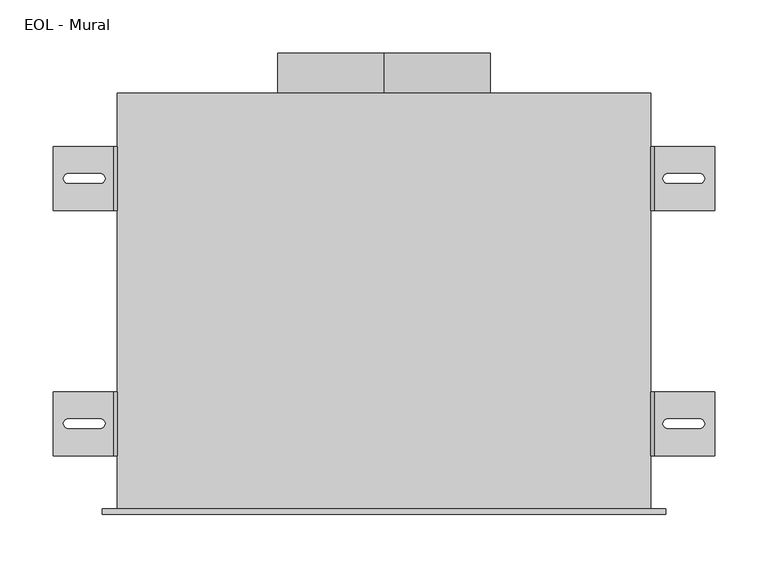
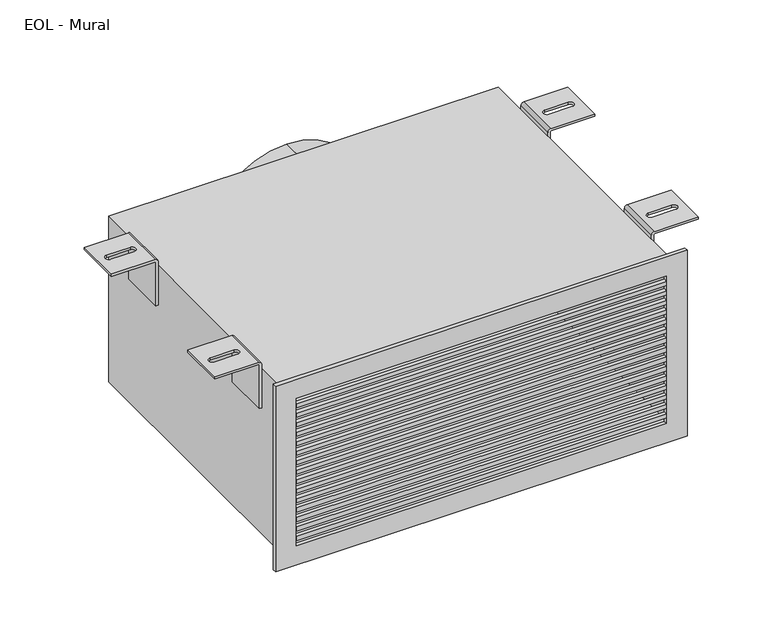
"""IFC4 building model written with IfcOpenShell, lengths in millimetres: air terminal geometry, EOL - Mural : EOL-M200-500x225-2."""

import ifcopenshell
import ifcopenshell.guid

model = None  # the IFC model being written
_history = None  # IfcOwnerHistory: only IFC2X3 demands one
_inside = {}  # id of a spatial element -> (the spatial element, [elements in it])
_under = {}  # id of a project, library or spatial element -> (it, [spatial elements below it])
_declared = {}  # id of a project -> (the project, [libraries it declares])
_typed = {}  # id of a type object -> (the type object, [elements of that type])
_made_of = {}  # id of a material, layer set ... -> (it, [elements and type objects made of it])


def new_model(schema):
    """Start an empty IFC model of exactly this schema.

    Asked for "IFC4X3", IfcOpenShell would pick the latest addendum, in which some entities
    have other attributes; the version numbers below select the first issue.
    IFC2X3 requires an IfcOwnerHistory on every rooted entity: one is made here for all.
    """
    global model, _history
    if schema == "IFC4X3":
        model = ifcopenshell.file(schema_version=(4, 3, 0, 0))
    else:
        model = ifcopenshell.file(schema=schema)
    _inside.clear()
    _under.clear()
    _declared.clear()
    _typed.clear()
    _made_of.clear()
    _history = None
    if model.schema == "IFC2X3":
        org = make("IfcOrganization", Name="unknown")
        user = make(
            "IfcPersonAndOrganization",
            ThePerson=make("IfcPerson", FamilyName="unknown"),
            TheOrganization=org,
        )
        app = make(
            "IfcApplication",
            ApplicationDeveloper=org,
            Version="unknown",
            ApplicationFullName="unknown",
            ApplicationIdentifier="unknown",
        )
        _history = make(
            "IfcOwnerHistory",
            OwningUser=user,
            OwningApplication=app,
            ChangeAction="ADDED",
            CreationDate=0,
        )
    return model


def make(cls, **values):
    """One entity of the class cls with the attributes given. An attribute that is None is left unset."""
    return model.create_entity(
        cls, **{name: value for name, value in values.items() if value is not None}
    )


def rooted(cls, **values):
    """An entity with a GlobalId (a new one), such as an element, a storey or a relation."""
    return make(cls, GlobalId=ifcopenshell.guid.new(), OwnerHistory=_history, **values)


def si_unit(unit_type, name, prefix=None):
    """IfcSIUnit, for example si_unit("LENGTHUNIT", "METRE", prefix="MILLI")."""
    return make("IfcSIUnit", UnitType=unit_type, Prefix=prefix, Name=name)


def assignment(units):
    """IfcUnitAssignment: the units of a project."""
    return None if units is None else make("IfcUnitAssignment", Units=units)


def point(xyz):
    """IfcCartesianPoint."""
    return None if xyz is None else make("IfcCartesianPoint", Coordinates=xyz)


def direction(xyz):
    """IfcDirection."""
    return None if xyz is None else make("IfcDirection", DirectionRatios=xyz)


def frame(location, z_axis=None, x_axis=None):
    """IfcAxis2Placement3D, a coordinate frame: its origin and axes. An axis left out is left unset."""
    return make(
        "IfcAxis2Placement3D",
        Location=point(location),
        Axis=direction(z_axis),
        RefDirection=direction(x_axis),
    )


def frame_2d(location, x_axis=None):
    """IfcAxis2Placement2D, a coordinate frame in the plane: its origin and x axis."""
    return make(
        "IfcAxis2Placement2D", Location=point(location), RefDirection=direction(x_axis)
    )


def origin():
    """The frame at (0, 0, 0) with its axes left unset."""
    return frame((0.0, 0.0, 0.0))


def origin_2d():
    """The frame at (0, 0) in the plane with its x axis left unset."""
    return frame_2d((0.0, 0.0))


def place(relative_to, where):
    """IfcLocalPlacement: puts the frame where relative to a parent placement (None: the world)."""
    return make(
        "IfcLocalPlacement", PlacementRelTo=relative_to, RelativePlacement=where
    )


def context(
    kind, dimensions, precision=None, world=None, true_north=None, identifier=None
):
    """IfcGeometricRepresentationContext, for example the 3D "Model" context."""
    return make(
        "IfcGeometricRepresentationContext",
        ContextIdentifier=identifier,
        ContextType=kind,
        CoordinateSpaceDimension=dimensions,
        Precision=precision,
        WorldCoordinateSystem=world,
        TrueNorth=true_north,
    )


def project(units=None, contexts=None):
    """IfcProject with its units and contexts."""
    return rooted(
        "IfcProject",
        Name="project",
        RepresentationContexts=contexts,
        UnitsInContext=assignment(units),
    )


def spatial(cls, under=None, at=None, **own):
    """A site, building, storey or space (cls), placed at a placement, below another one or the project."""
    s = rooted(cls, ObjectPlacement=at, **own)
    if under is not None:
        _under.setdefault(under.id(), (under, []))[1].append(s)
    return s


def polyline(points):
    """IfcPolyline through the points."""
    return make("IfcPolyline", Points=[point(p) for p in points])


def circle_curve(where, radius):
    """IfcCircle in the frame where."""
    return make("IfcCircle", Position=where, Radius=radius)


def ellipse_curve(where, semi_axis1, semi_axis2):
    """IfcEllipse in the frame where."""
    return make(
        "IfcEllipse", Position=where, SemiAxis1=semi_axis1, SemiAxis2=semi_axis2
    )


def trimmed(basis, trim1, trim2, sense, master):
    """IfcTrimmedCurve: the piece of a basis curve between two trims."""
    return make(
        "IfcTrimmedCurve",
        BasisCurve=basis,
        Trim1=trim1,
        Trim2=trim2,
        SenseAgreement=sense,
        MasterRepresentation=master,
    )


def segment(curve, same_sense, transition):
    """IfcCompositeCurveSegment."""
    return make(
        "IfcCompositeCurveSegment",
        Transition=transition,
        SameSense=same_sense,
        ParentCurve=curve,
    )


def composite_curve(segments, self_intersect=None):
    """IfcCompositeCurve: segments joined end to end."""
    return make("IfcCompositeCurve", Segments=segments, SelfIntersect=self_intersect)


def outline(outer, holes=None, kind="AREA"):
    """IfcArbitraryClosedProfileDef: a profile drawn as a closed curve; with holes, ...WithVoids."""
    if holes is None:
        return make("IfcArbitraryClosedProfileDef", ProfileType=kind, OuterCurve=outer)
    return make(
        "IfcArbitraryProfileDefWithVoids",
        ProfileType=kind,
        OuterCurve=outer,
        InnerCurves=holes,
    )


def extrude(swept, where, along, depth):
    """IfcExtrudedAreaSolid: the profile swept, set in the frame where, extruded along a direction by depth."""
    return make(
        "IfcExtrudedAreaSolid",
        SweptArea=swept,
        Position=where,
        ExtrudedDirection=direction(along),
        Depth=depth,
    )


def shape(context_of_items, identifier, shape_type, items):
    """IfcShapeRepresentation: the items that make up one representation, for example the "Body"."""
    return make(
        "IfcShapeRepresentation",
        ContextOfItems=context_of_items,
        RepresentationIdentifier=identifier,
        RepresentationType=shape_type,
        Items=items,
    )


def source(mapping_origin, context_of_items, identifier, shape_type, items):
    """IfcRepresentationMap: a shape defined once, which mapped items show again and again."""
    return make(
        "IfcRepresentationMap",
        MappingOrigin=mapping_origin,
        MappedRepresentation=shape(context_of_items, identifier, shape_type, items),
    )


def transform(
    local_origin,
    x_axis=None,
    y_axis=None,
    z_axis=None,
    scale=None,
    scale2=None,
    scale3=None,
    uniform=True,
):
    """IfcCartesianTransformationOperator3D, or its non-uniform kind. x_axis, y_axis, z_axis: its Axis1, 2, 3."""
    if uniform:
        return make(
            "IfcCartesianTransformationOperator3D",
            Axis1=direction(x_axis),
            Axis2=direction(y_axis),
            LocalOrigin=point(local_origin),
            Scale=scale,
            Axis3=direction(z_axis),
        )
    return make(
        "IfcCartesianTransformationOperator3DnonUniform",
        Axis1=direction(x_axis),
        Axis2=direction(y_axis),
        LocalOrigin=point(local_origin),
        Scale=scale,
        Axis3=direction(z_axis),
        Scale2=scale2,
        Scale3=scale3,
    )


def mapped(mapping_source, mapping_target):
    """IfcMappedItem: shows the shape of a source again, moved by a transform."""
    return make(
        "IfcMappedItem", MappingSource=mapping_source, MappingTarget=mapping_target
    )


def made_of(thing, what):
    """Note that an element or type object is made of a material, layer set ...; save() writes the relation."""
    if what is not None:
        _made_of.setdefault(what.id(), (what, []))[1].append(thing)
    return thing


def element(
    cls,
    number,
    at=None,
    inside=None,
    cuts=None,
    type_object=None,
    material=None,
    context=None,
    identifier="Body",
    shape_type=None,
    held_by="IfcProductDefinitionShape",
    body=None,
    shapes=None,
    **own,
):
    """One element of the class cls, such as IfcWall. Its Tag is "e" and its number.

    at: its placement. inside: the storey or other place that contains it. cuts: it is an
    opening in that element (IfcRelVoidsElement). A single representation is given by context,
    identifier, shape_type and body (its items); several are given by shapes. held_by: the class
    of the entity that holds the representations. save() writes the other relations.
    """
    e = rooted(cls, Tag="e%d" % number, ObjectPlacement=at, **own)
    if body is not None:
        shapes = [shape(context, identifier, shape_type, body)]
    if shapes is not None:
        e.Representation = make(held_by, Representations=shapes)
    if inside is not None:
        _inside.setdefault(inside.id(), (inside, []))[1].append(e)
    if cuts is not None:
        rooted(
            "IfcRelVoidsElement", RelatingBuildingElement=cuts, RelatedOpeningElement=e
        )
    if type_object is not None:
        _typed.setdefault(type_object.id(), (type_object, []))[1].append(e)
    return made_of(e, material)


def aggregate(whole, parts):
    """IfcRelAggregates: a whole, such as a stair, and the parts it consists of."""
    return rooted("IfcRelAggregates", RelatingObject=whole, RelatedObjects=parts)


def save(model, path):
    """Write the relations noted so far, then the file.

    IfcRelAggregates (storeys below a building ...), IfcRelContainedInSpatialStructure (elements
    in a storey), IfcRelDefinesByType, IfcRelAssociatesMaterial and IfcRelDeclares: one each for
    every whole, place, type object, material and project.
    """
    for whole, parts in _under.values():
        aggregate(whole, parts)
    for where, things in _inside.values():
        rooted(
            "IfcRelContainedInSpatialStructure",
            RelatedElements=things,
            RelatingStructure=where,
        )
    for kind, things in _typed.values():
        rooted("IfcRelDefinesByType", RelatedObjects=things, RelatingType=kind)
    for what, things in _made_of.values():
        rooted("IfcRelAssociatesMaterial", RelatedObjects=things, RelatingMaterial=what)
    for by, libraries in _declared.values():
        rooted("IfcRelDeclares", RelatingContext=by, RelatedDefinitions=libraries)
    model.write(path)


def plane_surface(at):
    """IfcPlane: the flat surface through the origin of the frame at, square to its z axis."""
    return make("IfcPlane", Position=at)


def cylinder_surface(at, radius):
    """IfcCylindricalSurface: all points at the distance radius from the z axis of the frame at."""
    return make("IfcCylindricalSurface", Position=at, Radius=radius)


def revolved_surface(curve, axis_point, axis_direction):
    """IfcSurfaceOfRevolution: the curve turned about the line through axis_point along axis_direction."""
    return make(
        "IfcSurfaceOfRevolution",
        SweptCurve=make("IfcArbitraryOpenProfileDef", ProfileType="CURVE", Curve=curve),
        AxisPosition=make("IfcAxis1Placement", Location=point(axis_point), Axis=direction(axis_direction)),
    )


def extruded_surface(curve, direction_of_extrusion, depth):
    """IfcSurfaceOfLinearExtrusion: the curve pushed along a direction by depth."""
    return make(
        "IfcSurfaceOfLinearExtrusion",
        SweptCurve=make("IfcArbitraryOpenProfileDef", ProfileType="CURVE", Curve=curve),
        ExtrudedDirection=direction(direction_of_extrusion),
        Depth=depth,
    )


def advanced_brep(points, edges, surfaces, faces):
    """IfcAdvancedBrep: a solid bounded by faces that lie on surfaces and meet in shared edges.

    An edge is (start, end): straight between two places in points (the first is 0);
    or (start, end, curve); or (start, end, curve, False) where it runs against its curve.
    A face is (place in surfaces, loops), or (place, loops, False) where it looks against
    its surface's normal. A loop lists edges by number (the first is 1), with a minus sign
    where the edge is run from its end to its start. The first loop is the outer one.
    """
    corners = [point(p) for p in points]
    vertices = [make("IfcVertexPoint", VertexGeometry=c) for c in corners]
    made = []
    for start, end, *more in edges:
        made.append(
            make(
                "IfcEdgeCurve",
                EdgeStart=vertices[start],
                EdgeEnd=vertices[end],
                EdgeGeometry=more[0] if more else make("IfcPolyline", Points=[corners[start], corners[end]]),
                SameSense=more[1] if len(more) > 1 else True,
            )
        )
    hull = []
    for where, loops, *sense in faces:
        bounds = []
        for j, loop in enumerate(loops):
            ring = [make("IfcOrientedEdge", EdgeElement=made[abs(k) - 1], Orientation=k > 0) for k in loop]
            bounds.append(
                make(
                    "IfcFaceOuterBound" if j == 0 else "IfcFaceBound",
                    Bound=make("IfcEdgeLoop", EdgeList=ring),
                    Orientation=True,
                )
            )
        hull.append(make("IfcAdvancedFace", Bounds=bounds, FaceSurface=surfaces[where], SameSense=sense[0] if sense else True))
    return make("IfcAdvancedBrep", Outer=make("IfcClosedShell", CfsFaces=hull))


def eol_mural_03f5ad25(model_context):
    return source(origin(), model_context, "Body", "SolidModel", [
        advanced_brep(
        [(254.0013366, 110.0, 121.5), (310.0, 110.0, 121.5), (310.0, 110.0, 118.5), (254.0, 110.0, 118.5), (253.0, 110.0, 117.5), (253.0, 110.0, 58.5), (250.0, 110.0, 58.5), (250.0, 110.0, 117.4986634), (254.0013366, 50.0, 121.5), (250.0, 50.0, 117.4986634), (250.0, 50.0, 58.5), (253.0, 50.0, 58.5), (253.0, 50.0, 117.5), (254.0, 50.0, 118.5), (310.0, 50.0, 118.5), (310.0, 50.0, 121.5), (296.0287952, 75.4804328, 121.5), (266.0287952, 75.4804328, 121.5), (266.0287952, 84.4804328, 121.5), (296.0287952, 84.4804328, 121.5), (266.0287952, 75.4804328, 118.5), (296.0287952, 75.4804328, 118.5), (296.0287952, 84.4804328, 118.5), (266.0287952, 84.4804328, 118.5)],
        [
            (0, 1),
            (1, 2),
            (2, 3),
            (3, 4, circle_curve(frame((254.0, 110.0, 117.5), z_axis=(0.0, -1.0, 0.0), x_axis=(-1.0000000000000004, 0.0, 0.0)), 1.0)),
            (4, 5),
            (5, 6),
            (6, 7),
            (7, 0, circle_curve(frame((254.0013366, 110.0, 117.4986634), z_axis=(0.0, 1.0, 0.0), x_axis=(-1.0000000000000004, 0.0, 0.0)), 4.0013366)),
            (8, 9, circle_curve(frame((254.0013366, 50.0, 117.4986634), z_axis=(0.0, -1.0, 0.0), x_axis=(-1.0000000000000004, 0.0, 0.0)), 4.0013366)),
            (9, 10),
            (10, 11),
            (11, 12),
            (12, 13, circle_curve(frame((254.0, 50.0, 117.5), z_axis=(0.0, 1.0, 0.0), x_axis=(-1.0000000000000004, 0.0, 0.0)), 1.0)),
            (13, 14),
            (14, 15),
            (15, 8),
            (0, 8),
            (15, 1),
            (16, 17),
            (17, 18, circle_curve(frame((266.0287952, 79.9804328, 121.5), z_axis=(0.0, 0.0, -1.0), x_axis=(0.0, -1.0, 0.0)), 4.5)),
            (18, 19),
            (19, 16, circle_curve(frame((296.0287952, 79.9804328, 121.5), z_axis=(0.0, 0.0, -1.0), x_axis=(0.0, -1.0, 0.0)), 4.5)),
            (14, 2),
            (13, 3),
            (20, 21),
            (21, 22, ellipse_curve(frame((296.0287952, 79.9804328, 118.5), z_axis=(0.0, 0.0, 1.0), x_axis=(0.0, -1.0, 0.0)), 4.5, 4.5)),
            (22, 23),
            (23, 20, ellipse_curve(frame((266.0287952, 79.9804328, 118.5), z_axis=(0.0, 0.0, 1.0), x_axis=(0.0, -1.0, 0.0)), 4.5, 4.5)),
            (12, 4),
            (11, 5),
            (10, 6),
            (9, 7),
            (16, 21),
            (20, 17),
            (19, 22),
            (18, 23),
        ],
        [
            plane_surface(frame((310.0, 110.0, 121.5), z_axis=(0.0, 1.0, 0.0), x_axis=(1.0, 0.0, 0.0))),
            plane_surface(frame((310.0, 50.0, 121.5), z_axis=(0.0, -1.0, 0.0), x_axis=(-1.0, 0.0, 0.0))),
            plane_surface(frame((254.0013366, 110.0, 121.5), z_axis=(0.0, 0.0, 1.0), x_axis=(0.0, -1.0, 0.0))),
            plane_surface(frame((310.0, 110.0, 121.5), z_axis=(1.0, 0.0, 0.0), x_axis=(0.0, -1.0, 0.0))),
            plane_surface(frame((310.0, 110.0, 118.5), z_axis=(0.0, 0.0, -1.0), x_axis=(0.0, -1.0, 0.0))),
            revolved_surface(polyline([(253.0, 50.0, 117.5), (253.0, 110.00000000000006, 117.5)]), (254.0, 50.0, 117.5), (0.0, -1.0000000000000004, 0.0)),
            plane_surface(frame((253.0, 110.0, 117.5), z_axis=(1.0, 0.0, 0.0), x_axis=(0.0, -1.0, 0.0))),
            plane_surface(frame((253.0, 110.0, 58.5), z_axis=(0.0, 0.0, -1.0), x_axis=(0.0, -1.0, 0.0))),
            plane_surface(frame((250.0, 110.0, 58.5), z_axis=(-1.0, 0.0, 0.0), x_axis=(0.0, -1.0, 0.0))),
            cylinder_surface(frame((254.0013366, 50.0, 117.4986634), z_axis=(0.0, 1.0000000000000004, 0.0), x_axis=(-1.0000000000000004, 0.0, 0.0)), 4.0013366),
            plane_surface(frame((266.0287952, 75.4804328, 121.5), z_axis=(0.0, 1.0, 0.0), x_axis=(0.0, 0.0, -1.0))),
            extruded_surface(trimmed(ellipse_curve(frame((296.0287952, 79.9804328, 118.5), z_axis=(0.0, 0.0, 1.0), x_axis=(0.0, -1.0, 0.0)), 4.5, 4.5), [point((296.0287952, 75.4804328, 118.5))], [point((296.0287952, 84.4804328, 118.5))], True, "CARTESIAN"), (0.0, 0.0, -3.0), 3.0),
            plane_surface(frame((296.0287952, 84.4804328, 121.5), z_axis=(0.0, -1.0, 0.0), x_axis=(0.0, 0.0, -1.0))),
            extruded_surface(trimmed(ellipse_curve(frame((266.0287952, 79.9804328, 118.5), z_axis=(0.0, 0.0, 1.0), x_axis=(0.0, -1.0, 0.0)), 4.5, 4.5), [point((266.0287952, 84.4804328, 118.5))], [point((266.0287952, 75.4804328, 118.5))], True, "CARTESIAN"), (0.0, 0.0, -3.0), 3.0),
        ],
        [
            (0, [[1, 2, 3, 4, 5, 6, 7, 8]]),
            (1, [[9, 10, 11, 12, 13, 14, 15, 16]]),
            (2, [[-1, 17, -16, 18], [19, 20, 21, 22]]),
            (3, [[-2, -18, -15, 23]]),
            (4, [[-3, -23, -14, 24], [25, 26, 27, 28]]),
            (5, [[-4, -24, -13, 29]]),
            (6, [[-5, -29, -12, 30]]),
            (7, [[-6, -30, -11, 31]]),
            (8, [[-7, -31, -10, 32]]),
            (9, [[-8, -32, -9, -17]]),
            (10, [[33, -25, 34, -19]]),
            (11, [[-33, -22, 35, -26]]),
            (12, [[-35, -21, 36, -27]]),
            (13, [[-34, -28, -36, -20]]),
        ],
    ),
        advanced_brep(
        [(254.0013366, 340.0, 121.5), (310.0, 340.0, 121.5), (310.0, 340.0, 118.5), (254.0, 340.0, 118.5), (253.0, 340.0, 117.5), (253.0, 340.0, 58.5), (250.0, 340.0, 58.5), (250.0, 340.0, 117.4986634), (254.0013366, 280.0, 121.5), (250.0, 280.0, 117.4986634), (250.0, 280.0, 58.5), (253.0, 280.0, 58.5), (253.0, 280.0, 117.5), (254.0, 280.0, 118.5), (310.0, 280.0, 118.5), (310.0, 280.0, 121.5), (296.0287952, 305.4804328, 121.5), (266.0287952, 305.4804328, 121.5), (266.0287952, 314.4804328, 121.5), (296.0287952, 314.4804328, 121.5), (266.0287952, 305.4804328, 118.5), (296.0287952, 305.4804328, 118.5), (296.0287952, 314.4804328, 118.5), (266.0287952, 314.4804328, 118.5)],
        [
            (0, 1),
            (1, 2),
            (2, 3),
            (3, 4, circle_curve(frame((254.0, 340.0, 117.5), z_axis=(0.0, -1.0, 0.0), x_axis=(-1.0, 0.0, 0.0)), 1.0)),
            (4, 5),
            (5, 6),
            (6, 7),
            (7, 0, circle_curve(frame((254.0013366, 340.0, 117.4986634), z_axis=(0.0, 1.0, 0.0), x_axis=(-1.0, 0.0, 0.0)), 4.0013366)),
            (8, 9, circle_curve(frame((254.0013366, 280.0, 117.4986634), z_axis=(0.0, -1.0, 0.0), x_axis=(-1.0, 0.0, 0.0)), 4.0013366)),
            (9, 10),
            (10, 11),
            (11, 12),
            (12, 13, circle_curve(frame((254.0, 280.0, 117.5), z_axis=(0.0, 1.0, 0.0), x_axis=(-1.0, 0.0, 0.0)), 1.0)),
            (13, 14),
            (14, 15),
            (15, 8),
            (0, 8),
            (15, 1),
            (16, 17),
            (17, 18, circle_curve(frame((266.0287952, 309.9804328, 121.5), z_axis=(0.0, 0.0, -1.0), x_axis=(0.0, -1.0, 0.0)), 4.5)),
            (18, 19),
            (19, 16, circle_curve(frame((296.0287952, 309.9804328, 121.5), z_axis=(0.0, 0.0, -1.0), x_axis=(0.0, -1.0, 0.0)), 4.5)),
            (14, 2),
            (13, 3),
            (20, 21),
            (21, 22, ellipse_curve(frame((296.0287952, 309.9804328, 118.5), z_axis=(0.0, 0.0, 1.0), x_axis=(0.0, -1.0, 0.0)), 4.5, 4.5)),
            (22, 23),
            (23, 20, ellipse_curve(frame((266.0287952, 309.9804328, 118.5), z_axis=(0.0, 0.0, 1.0), x_axis=(0.0, -1.0, 0.0)), 4.5, 4.5)),
            (12, 4),
            (11, 5),
            (10, 6),
            (9, 7),
            (16, 21),
            (20, 17),
            (19, 22),
            (18, 23),
        ],
        [
            plane_surface(frame((310.0, 340.0, 121.5), z_axis=(0.0, 1.0, 0.0), x_axis=(1.0, 0.0, 0.0))),
            plane_surface(frame((310.0, 280.0, 121.5), z_axis=(0.0, -1.0, 0.0), x_axis=(-1.0, 0.0, 0.0))),
            plane_surface(frame((254.0013366, 340.0, 121.5), z_axis=(0.0, 0.0, 1.0), x_axis=(0.0, -1.0, 0.0))),
            plane_surface(frame((310.0, 340.0, 121.5), z_axis=(1.0, 0.0, 0.0), x_axis=(0.0, -1.0, 0.0))),
            plane_surface(frame((310.0, 340.0, 118.5), z_axis=(0.0, 0.0, -1.0), x_axis=(0.0, -1.0, 0.0))),
            revolved_surface(polyline([(253.0, 280.0, 117.5), (253.0, 340.0, 117.5)]), (254.0, 280.0, 117.5), (0.0, -1.0, 0.0)),
            plane_surface(frame((253.0, 340.0, 117.5), z_axis=(1.0, 0.0, 0.0), x_axis=(0.0, -1.0, 0.0))),
            plane_surface(frame((253.0, 340.0, 58.5), z_axis=(0.0, 0.0, -1.0), x_axis=(0.0, -1.0, 0.0))),
            plane_surface(frame((250.0, 340.0, 58.5), z_axis=(-1.0, 0.0, 0.0), x_axis=(0.0, -1.0, 0.0))),
            cylinder_surface(frame((254.0013366, 280.0, 117.4986634), z_axis=(0.0, 1.0, 0.0), x_axis=(-1.0, 0.0, 0.0)), 4.0013366),
            plane_surface(frame((266.0287952, 305.4804328, 121.5), z_axis=(0.0, 1.0, 0.0), x_axis=(0.0, 0.0, -1.0))),
            extruded_surface(trimmed(ellipse_curve(frame((296.0287952, 309.9804328, 118.5), z_axis=(0.0, 0.0, 1.0), x_axis=(0.0, -1.0, 0.0)), 4.5, 4.5), [point((296.0287952, 305.4804328, 118.5))], [point((296.0287952, 314.4804328, 118.5))], True, "CARTESIAN"), (0.0, 0.0, -3.0), 3.0),
            plane_surface(frame((296.0287952, 314.4804328, 121.5), z_axis=(0.0, -1.0, 0.0), x_axis=(0.0, 0.0, -1.0))),
            extruded_surface(trimmed(ellipse_curve(frame((266.0287952, 309.9804328, 118.5), z_axis=(0.0, 0.0, 1.0), x_axis=(0.0, -1.0, 0.0)), 4.5, 4.5), [point((266.0287952, 314.4804328, 118.5))], [point((266.0287952, 305.4804328, 118.5))], True, "CARTESIAN"), (0.0, 0.0, -3.0), 3.0),
        ],
        [
            (0, [[1, 2, 3, 4, 5, 6, 7, 8]]),
            (1, [[9, 10, 11, 12, 13, 14, 15, 16]]),
            (2, [[-1, 17, -16, 18], [19, 20, 21, 22]]),
            (3, [[-2, -18, -15, 23]]),
            (4, [[-3, -23, -14, 24], [25, 26, 27, 28]]),
            (5, [[-4, -24, -13, 29]]),
            (6, [[-5, -29, -12, 30]]),
            (7, [[-6, -30, -11, 31]]),
            (8, [[-7, -31, -10, 32]]),
            (9, [[-8, -32, -9, -17]]),
            (10, [[33, -25, 34, -19]]),
            (11, [[-33, -22, 35, -26]]),
            (12, [[-35, -21, 36, -27]]),
            (13, [[-34, -28, -36, -20]]),
        ],
    ),
        advanced_brep(
        [(-254.0013366, 50.0, 121.5), (-310.0, 50.0, 121.5), (-310.0, 50.0, 118.5), (-254.0, 50.0, 118.5), (-253.0, 50.0, 117.5), (-253.0, 50.0, 58.5), (-250.0, 50.0, 58.5), (-250.0, 50.0, 117.4986634), (-254.0013366, 110.0, 121.5), (-250.0, 110.0, 117.4986634), (-250.0, 110.0, 58.5), (-253.0, 110.0, 58.5), (-253.0, 110.0, 117.5), (-254.0, 110.0, 118.5), (-310.0, 110.0, 118.5), (-310.0, 110.0, 121.5), (-296.0287952, 84.5195672, 121.5), (-266.0287952, 84.5195672, 121.5), (-266.0287952, 75.5195672, 121.5), (-296.0287952, 75.5195672, 121.5), (-266.0287952, 84.5195672, 118.5), (-296.0287952, 84.5195672, 118.5), (-296.0287952, 75.5195672, 118.5), (-266.0287952, 75.5195672, 118.5)],
        [
            (0, 1),
            (1, 2),
            (2, 3),
            (3, 4, circle_curve(frame((-254.0, 50.0, 117.5), z_axis=(0.0, 1.0, 0.0), x_axis=(1.0, 0.0, 0.0)), 1.0)),
            (4, 5),
            (5, 6),
            (6, 7),
            (7, 0, circle_curve(frame((-254.0013366, 50.0, 117.4986634), z_axis=(0.0, -1.0, 0.0), x_axis=(1.0, 0.0, 0.0)), 4.0013366)),
            (8, 9, circle_curve(frame((-254.0013366, 110.0, 117.4986634), z_axis=(0.0, 1.0, 0.0), x_axis=(1.0, 0.0, 0.0)), 4.0013366)),
            (9, 10),
            (10, 11),
            (11, 12),
            (12, 13, circle_curve(frame((-254.0, 110.0, 117.5), z_axis=(0.0, -1.0, 0.0), x_axis=(1.0, 0.0, 0.0)), 1.0)),
            (13, 14),
            (14, 15),
            (15, 8),
            (0, 8),
            (15, 1),
            (16, 17),
            (17, 18, circle_curve(frame((-266.0287952, 80.0195672, 121.5), z_axis=(0.0, 0.0, -1.0), x_axis=(0.0, 1.0, 0.0)), 4.5)),
            (18, 19),
            (19, 16, circle_curve(frame((-296.0287952, 80.0195672, 121.5), z_axis=(0.0, 0.0, -1.0), x_axis=(0.0, 1.0, 0.0)), 4.5)),
            (14, 2),
            (13, 3),
            (20, 21),
            (21, 22, ellipse_curve(frame((-296.0287952, 80.0195672, 118.5), z_axis=(0.0, 0.0, 1.0), x_axis=(0.0, 1.0, 0.0)), 4.5, 4.5)),
            (22, 23),
            (23, 20, ellipse_curve(frame((-266.0287952, 80.0195672, 118.5), z_axis=(0.0, 0.0, 1.0), x_axis=(0.0, 1.0, 0.0)), 4.5, 4.5)),
            (12, 4),
            (11, 5),
            (10, 6),
            (9, 7),
            (16, 21),
            (20, 17),
            (19, 22),
            (18, 23),
        ],
        [
            plane_surface(frame((-310.0, 50.0, 121.5), z_axis=(0.0, -1.0, 0.0), x_axis=(-1.0, 0.0, 0.0))),
            plane_surface(frame((-310.0, 110.0, 121.5), z_axis=(0.0, 1.0, 0.0), x_axis=(1.0, 0.0, 0.0))),
            plane_surface(frame((-254.0013366, 50.0, 121.5), z_axis=(0.0, 0.0, 1.0), x_axis=(0.0, 1.0, 0.0))),
            plane_surface(frame((-310.0, 50.0, 121.5), z_axis=(-1.0, 0.0, 0.0), x_axis=(0.0, 1.0, 0.0))),
            plane_surface(frame((-310.0, 50.0, 118.5), z_axis=(0.0, 0.0, -1.0), x_axis=(0.0, 1.0, 0.0))),
            revolved_surface(polyline([(-253.0, 110.0, 117.5), (-253.0, 50.0, 117.5)]), (-254.0, 110.0, 117.5), (0.0, 1.0, 0.0)),
            plane_surface(frame((-253.0, 50.0, 117.5), z_axis=(-1.0, 0.0, 0.0), x_axis=(0.0, 1.0, 0.0))),
            plane_surface(frame((-253.0, 50.0, 58.5), z_axis=(0.0, 0.0, -1.0), x_axis=(0.0, 1.0, 0.0))),
            plane_surface(frame((-250.0, 50.0, 58.5), z_axis=(1.0, 0.0, 0.0), x_axis=(0.0, 1.0, 0.0))),
            cylinder_surface(frame((-254.0013366, 110.0, 117.4986634), z_axis=(0.0, -1.0, 0.0), x_axis=(1.0, 0.0, 0.0)), 4.0013366),
            plane_surface(frame((-266.0287952, 84.5195672, 121.5), z_axis=(0.0, -1.0, 0.0), x_axis=(0.0, 0.0, -1.0))),
            extruded_surface(trimmed(ellipse_curve(frame((-296.0287952, 80.0195672, 118.5), z_axis=(0.0, 0.0, 1.0), x_axis=(0.0, 1.0, 0.0)), 4.5, 4.5), [point((-296.0287952, 84.5195672, 118.5))], [point((-296.0287952, 75.5195672, 118.5))], True, "CARTESIAN"), (0.0, 0.0, -3.0), 3.0),
            plane_surface(frame((-296.0287952, 75.5195672, 121.5), z_axis=(0.0, 1.0, 0.0), x_axis=(0.0, 0.0, -1.0))),
            extruded_surface(trimmed(ellipse_curve(frame((-266.0287952, 80.0195672, 118.5), z_axis=(0.0, 0.0, 1.0), x_axis=(0.0, 1.0, 0.0)), 4.5, 4.5), [point((-266.0287952, 75.5195672, 118.5))], [point((-266.0287952, 84.5195672, 118.5))], True, "CARTESIAN"), (0.0, 0.0, -3.0), 3.0),
        ],
        [
            (0, [[1, 2, 3, 4, 5, 6, 7, 8]]),
            (1, [[9, 10, 11, 12, 13, 14, 15, 16]]),
            (2, [[-1, 17, -16, 18], [19, 20, 21, 22]]),
            (3, [[-2, -18, -15, 23]]),
            (4, [[-3, -23, -14, 24], [25, 26, 27, 28]]),
            (5, [[-4, -24, -13, 29]]),
            (6, [[-5, -29, -12, 30]]),
            (7, [[-6, -30, -11, 31]]),
            (8, [[-7, -31, -10, 32]]),
            (9, [[-8, -32, -9, -17]]),
            (10, [[33, -25, 34, -19]]),
            (11, [[-33, -22, 35, -26]]),
            (12, [[-35, -21, 36, -27]]),
            (13, [[-34, -28, -36, -20]]),
        ],
    ),
        advanced_brep(
        [(-254.0013366, 280.0, 121.5), (-310.0, 280.0, 121.5), (-310.0, 280.0, 118.5), (-254.0, 280.0, 118.5), (-253.0, 280.0, 117.5), (-253.0, 280.0, 58.5), (-250.0, 280.0, 58.5), (-250.0, 280.0, 117.4986634), (-254.0013366, 340.0, 121.5), (-250.0, 340.0, 117.4986634), (-250.0, 340.0, 58.5), (-253.0, 340.0, 58.5), (-253.0, 340.0, 117.5), (-254.0, 340.0, 118.5), (-310.0, 340.0, 118.5), (-310.0, 340.0, 121.5), (-296.0287952, 314.5195672, 121.5), (-266.0287952, 314.5195672, 121.5), (-266.0287952, 305.5195672, 121.5), (-296.0287952, 305.5195672, 121.5), (-266.0287952, 314.5195672, 118.5), (-296.0287952, 314.5195672, 118.5), (-296.0287952, 305.5195672, 118.5), (-266.0287952, 305.5195672, 118.5)],
        [
            (0, 1),
            (1, 2),
            (2, 3),
            (3, 4, circle_curve(frame((-254.0, 280.0, 117.5), z_axis=(0.0, 1.0, 0.0), x_axis=(1.0, 0.0, 0.0)), 1.0)),
            (4, 5),
            (5, 6),
            (6, 7),
            (7, 0, circle_curve(frame((-254.0013366, 280.0, 117.4986634), z_axis=(0.0, -1.0, 0.0), x_axis=(1.0, 0.0, 0.0)), 4.0013366)),
            (8, 9, circle_curve(frame((-254.0013366, 340.0, 117.4986634), z_axis=(0.0, 1.0, 0.0), x_axis=(1.0, 0.0, 0.0)), 4.0013366)),
            (9, 10),
            (10, 11),
            (11, 12),
            (12, 13, circle_curve(frame((-254.0, 340.0, 117.5), z_axis=(0.0, -1.0, 0.0), x_axis=(1.0, 0.0, 0.0)), 1.0)),
            (13, 14),
            (14, 15),
            (15, 8),
            (0, 8),
            (15, 1),
            (16, 17),
            (17, 18, circle_curve(frame((-266.0287952, 310.0195672, 121.5), z_axis=(0.0, 0.0, -1.0), x_axis=(0.0, 1.0, 0.0)), 4.5)),
            (18, 19),
            (19, 16, circle_curve(frame((-296.0287952, 310.0195672, 121.5), z_axis=(0.0, 0.0, -1.0), x_axis=(0.0, 1.0, 0.0)), 4.5)),
            (14, 2),
            (13, 3),
            (20, 21),
            (21, 22, ellipse_curve(frame((-296.0287952, 310.0195672, 118.5), z_axis=(0.0, 0.0, 1.0), x_axis=(0.0, 1.0, 0.0)), 4.5, 4.5)),
            (22, 23),
            (23, 20, ellipse_curve(frame((-266.0287952, 310.0195672, 118.5), z_axis=(0.0, 0.0, 1.0), x_axis=(0.0, 1.0, 0.0)), 4.5, 4.5)),
            (12, 4),
            (11, 5),
            (10, 6),
            (9, 7),
            (16, 21),
            (20, 17),
            (19, 22),
            (18, 23),
        ],
        [
            plane_surface(frame((-310.0, 280.0, 121.5), z_axis=(0.0, -1.0, 0.0), x_axis=(-1.0, 0.0, 0.0))),
            plane_surface(frame((-310.0, 340.0, 121.5), z_axis=(0.0, 1.0, 0.0), x_axis=(1.0, 0.0, 0.0))),
            plane_surface(frame((-254.0013366, 280.0, 121.5), z_axis=(0.0, 0.0, 1.0), x_axis=(0.0, 1.0, 0.0))),
            plane_surface(frame((-310.0, 280.0, 121.5), z_axis=(-1.0, 0.0, 0.0), x_axis=(0.0, 1.0, 0.0))),
            plane_surface(frame((-310.0, 280.0, 118.5), z_axis=(0.0, 0.0, -1.0), x_axis=(0.0, 1.0, 0.0))),
            revolved_surface(polyline([(-253.0, 340.0, 117.5), (-253.0, 280.0, 117.5)]), (-254.0, 340.0, 117.5), (0.0, 1.0, 0.0)),
            plane_surface(frame((-253.0, 280.0, 117.5), z_axis=(-1.0, 0.0, 0.0), x_axis=(0.0, 1.0, 0.0))),
            plane_surface(frame((-253.0, 280.0, 58.5), z_axis=(0.0, 0.0, -1.0), x_axis=(0.0, 1.0, 0.0))),
            plane_surface(frame((-250.0, 280.0, 58.5), z_axis=(1.0, 0.0, 0.0), x_axis=(0.0, 1.0, 0.0))),
            cylinder_surface(frame((-254.0013366, 340.0, 117.4986634), z_axis=(0.0, -1.0, 0.0), x_axis=(1.0, 0.0, 0.0)), 4.0013366),
            plane_surface(frame((-266.0287952, 314.5195672, 121.5), z_axis=(0.0, -1.0, 0.0), x_axis=(0.0, 0.0, -1.0))),
            extruded_surface(trimmed(ellipse_curve(frame((-296.0287952, 310.0195672, 118.5), z_axis=(0.0, 0.0, 1.0), x_axis=(0.0, 1.0, 0.0)), 4.5, 4.5), [point((-296.0287952, 314.5195672, 118.5))], [point((-296.0287952, 305.5195672, 118.5))], True, "CARTESIAN"), (0.0, 0.0, -3.0), 3.0),
            plane_surface(frame((-296.0287952, 305.5195672, 121.5), z_axis=(0.0, 1.0, 0.0), x_axis=(0.0, 0.0, -1.0))),
            extruded_surface(trimmed(ellipse_curve(frame((-266.0287952, 310.0195672, 118.5), z_axis=(0.0, 0.0, 1.0), x_axis=(0.0, 1.0, 0.0)), 4.5, 4.5), [point((-266.0287952, 305.5195672, 118.5))], [point((-266.0287952, 314.5195672, 118.5))], True, "CARTESIAN"), (0.0, 0.0, -3.0), 3.0),
        ],
        [
            (0, [[1, 2, 3, 4, 5, 6, 7, 8]]),
            (1, [[9, 10, 11, 12, 13, 14, 15, 16]]),
            (2, [[-1, 17, -16, 18], [19, 20, 21, 22]]),
            (3, [[-2, -18, -15, 23]]),
            (4, [[-3, -23, -14, 24], [25, 26, 27, 28]]),
            (5, [[-4, -24, -13, 29]]),
            (6, [[-5, -29, -12, 30]]),
            (7, [[-6, -30, -11, 31]]),
            (8, [[-7, -31, -10, 32]]),
            (9, [[-8, -32, -9, -17]]),
            (10, [[33, -25, 34, -19]]),
            (11, [[-33, -22, 35, -26]]),
            (12, [[-35, -21, 36, -27]]),
            (13, [[-34, -28, -36, -20]]),
        ],
    ),
        extrude(outline(composite_curve([segment(trimmed(circle_curve(origin_2d(), 100.0), [point((-100.0, 0.0))], [point((100.0, 0.0))], False, "CARTESIAN"), True, "CONTINUOUS"), segment(trimmed(circle_curve(origin_2d(), 100.0), [point((100.0, 0.0))], [point((-100.0, 0.0))], False, "CARTESIAN"), True, "CONTINUOUS")], self_intersect=False), holes=[composite_curve([segment(trimmed(circle_curve(origin_2d(), 99.0), [point((0.0, 99.0))], [point((0.0, -99.0))], True, "CARTESIAN"), True, "CONTINUOUS"), segment(trimmed(circle_curve(origin_2d(), 99.0), [point((0.0, -99.0))], [point((0.0, 99.0))], True, "CARTESIAN"), True, "CONTINUOUS")], self_intersect=False)]), frame((0.0, 390.0, 0.0), z_axis=(0.0, 1.0, 0.0), x_axis=(0.0, 0.0, 1.0)), (0.0, 0.0, 1.0), 37.5),
        extrude(outline(polyline([(237.5, 0.0), (237.5, -5.0), (-237.5, -5.0), (-237.5, 0.0), (237.5, 0.0)])), frame((0.0, 0.0, 87.15), z_axis=(0.0, 0.0, 1.0), x_axis=(1.0, 0.0, 0.0)), (0.0, 0.0, 1.0), 5.6),
        extrude(outline(polyline([(237.5, 0.0), (237.5, -5.0), (-237.5, -5.0), (-237.5, 0.0), (237.5, 0.0)])), frame((0.0, 0.0, 74.3), z_axis=(0.0, 0.0, 1.0), x_axis=(1.0, 0.0, 0.0)), (0.0, 0.0, 1.0), 5.6),
        extrude(outline(polyline([(237.5, 0.0), (237.5, -5.0), (-237.5, -5.0), (-237.5, 0.0), (237.5, 0.0)])), frame((0.0, 0.0, 61.45), z_axis=(0.0, 0.0, 1.0), x_axis=(1.0, 0.0, 0.0)), (0.0, 0.0, 1.0), 5.6),
        extrude(outline(polyline([(237.5, 0.0), (237.5, -5.0), (-237.5, -5.0), (-237.5, 0.0), (237.5, 0.0)])), frame((0.0, 0.0, 48.6), z_axis=(0.0, 0.0, 1.0), x_axis=(1.0, 0.0, 0.0)), (0.0, 0.0, 1.0), 5.6),
        extrude(outline(polyline([(237.5, 0.0), (237.5, -5.0), (-237.5, -5.0), (-237.5, 0.0), (237.5, 0.0)])), frame((0.0, 0.0, 35.75), z_axis=(0.0, 0.0, 1.0), x_axis=(1.0, 0.0, 0.0)), (0.0, 0.0, 1.0), 5.6),
        extrude(outline(polyline([(237.5, 0.0), (237.5, -5.0), (-237.5, -5.0), (-237.5, 0.0), (237.5, 0.0)])), frame((0.0, 0.0, 22.9), z_axis=(0.0, 0.0, 1.0), x_axis=(1.0, 0.0, 0.0)), (0.0, 0.0, 1.0), 5.6),
        extrude(outline(polyline([(237.5, 0.0), (237.5, -5.0), (-237.5, -5.0), (-237.5, 0.0), (237.5, 0.0)])), frame((0.0, 0.0, 10.05), z_axis=(0.0, 0.0, 1.0), x_axis=(1.0, 0.0, 0.0)), (0.0, 0.0, 1.0), 5.6),
        extrude(outline(polyline([(237.5, 0.0), (237.5, -5.0), (-237.5, -5.0), (-237.5, 0.0), (237.5, 0.0)])), frame((0.0, 0.0, -2.8), z_axis=(0.0, 0.0, 1.0), x_axis=(1.0, 0.0, 0.0)), (0.0, 0.0, 1.0), 5.6),
        extrude(outline(polyline([(237.5, 0.0), (237.5, -5.0), (-237.5, -5.0), (-237.5, 0.0), (237.5, 0.0)])), frame((0.0, 0.0, -15.65), z_axis=(0.0, 0.0, 1.0), x_axis=(1.0, 0.0, 0.0)), (0.0, 0.0, 1.0), 5.6),
        extrude(outline(polyline([(237.5, 0.0), (237.5, -5.0), (-237.5, -5.0), (-237.5, 0.0), (237.5, 0.0)])), frame((0.0, 0.0, -28.5), z_axis=(0.0, 0.0, 1.0), x_axis=(1.0, 0.0, 0.0)), (0.0, 0.0, 1.0), 5.6),
        extrude(outline(polyline([(237.5, 0.0), (237.5, -5.0), (-237.5, -5.0), (-237.5, 0.0), (237.5, 0.0)])), frame((0.0, 0.0, -41.35), z_axis=(0.0, 0.0, 1.0), x_axis=(1.0, 0.0, 0.0)), (0.0, 0.0, 1.0), 5.6),
        extrude(outline(polyline([(237.5, 0.0), (237.5, -5.0), (-237.5, -5.0), (-237.5, 0.0), (237.5, 0.0)])), frame((0.0, 0.0, -54.2), z_axis=(0.0, 0.0, 1.0), x_axis=(1.0, 0.0, 0.0)), (0.0, 0.0, 1.0), 5.6),
        extrude(outline(polyline([(237.5, 0.0), (237.5, -5.0), (-237.5, -5.0), (-237.5, 0.0), (237.5, 0.0)])), frame((0.0, 0.0, -67.05), z_axis=(0.0, 0.0, 1.0), x_axis=(1.0, 0.0, 0.0)), (0.0, 0.0, 1.0), 5.6),
        extrude(outline(polyline([(237.5, 0.0), (237.5, -5.0), (-237.5, -5.0), (-237.5, 0.0), (237.5, 0.0)])), frame((0.0, 0.0, -79.9), z_axis=(0.0, 0.0, 1.0), x_axis=(1.0, 0.0, 0.0)), (0.0, 0.0, 1.0), 5.6),
        extrude(outline(polyline([(237.5, 0.0), (237.5, -5.0), (-237.5, -5.0), (-237.5, 0.0), (237.5, 0.0)])), frame((0.0, 0.0, -92.75), z_axis=(0.0, 0.0, 1.0), x_axis=(1.0, 0.0, 0.0)), (0.0, 0.0, 1.0), 5.6),
        extrude(outline(polyline([(126.0, 264.0), (126.0, -264.0), (-126.0, -264.0), (-126.0, 264.0), (126.0, 264.0)]), holes=[polyline([(100.0, 237.5), (-100.0, 237.5), (-100.0, -237.5), (100.0, -237.5), (100.0, 237.5)])]), frame((0.0, -5.0, 0.0), z_axis=(0.0, 1.0, 0.0), x_axis=(0.0, 0.0, 1.0)), (0.0, 0.0, 1.0), 5.0),
        advanced_brep(
        [(250.0, 390.0, 112.5), (-250.0, 390.0, 112.5), (-250.0, 0.0, 112.5), (250.0, 0.0, 112.5), (250.0, 390.0, -112.5), (250.0, 0.0, -112.5), (-250.0, 0.0, -112.5), (-250.0, 390.0, -112.5), (-99.0, 390.0, 0.0), (99.0, 390.0, 0.0), (-245.0, 0.0, 107.5), (245.0, 0.0, 107.5), (245.0, 0.0, -107.5), (-245.0, 0.0, -107.5), (245.0, 385.0, 107.5), (-245.0, 385.0, 107.5), (245.0, 385.0, -107.5), (-245.0, 385.0, -107.5), (99.0, 385.0, 0.0), (-99.0, 385.0, 0.0)],
        [
            (0, 1),
            (1, 2),
            (2, 3),
            (3, 0),
            (4, 5),
            (5, 6),
            (6, 7),
            (7, 4),
            (0, 4),
            (7, 1),
            (8, 9, circle_curve(frame((0.0, 390.0, 0.0), z_axis=(0.0, -1.0, 0.0), x_axis=(1.0, 0.0, 0.0)), 99.0)),
            (9, 8, circle_curve(frame((0.0, 390.0, 0.0), z_axis=(0.0, -1.0, 0.0), x_axis=(1.0, 0.0, 0.0)), 99.0)),
            (6, 2),
            (5, 3),
            (10, 11),
            (11, 12),
            (12, 13),
            (13, 10),
            (14, 11),
            (10, 15),
            (15, 14),
            (16, 17),
            (17, 13),
            (12, 16),
            (15, 17),
            (16, 14),
            (18, 19, circle_curve(frame((0.0, 385.0, 0.0), z_axis=(0.0, 1.0, 0.0), x_axis=(1.0, 0.0, 0.0)), 99.0)),
            (19, 18, circle_curve(frame((0.0, 385.0, 0.0), z_axis=(0.0, 1.0, 0.0), x_axis=(1.0, 0.0, 0.0)), 99.0)),
            (8, 19),
            (18, 9),
        ],
        [
            plane_surface(frame((-250.0, 390.0, 112.5), z_axis=(0.0, 0.0, 1.0), x_axis=(-1.0, 0.0, 0.0))),
            plane_surface(frame((-250.0, 390.0, -112.5), z_axis=(0.0, 0.0, -1.0), x_axis=(1.0, 0.0, 0.0))),
            plane_surface(frame((250.0, 390.0, 112.5), z_axis=(0.0, 1.0, 0.0), x_axis=(0.0, 0.0, -1.0))),
            plane_surface(frame((-250.0, 390.0, 112.5), z_axis=(-1.0, 0.0, 0.0), x_axis=(0.0, 0.0, -1.0))),
            plane_surface(frame((-250.0, 0.0, 112.5), z_axis=(0.0, -1.0, 0.0), x_axis=(0.0, 0.0, -1.0))),
            plane_surface(frame((250.0, 0.0, 112.5), z_axis=(1.0, 0.0, 0.0), x_axis=(0.0, 0.0, -1.0))),
            plane_surface(frame((-245.0, 385.0, 107.5), z_axis=(0.0, 0.0, -1.0), x_axis=(-1.0, 0.0, 0.0))),
            plane_surface(frame((-245.0, 385.0, -107.5), z_axis=(0.0, 0.0, 1.0), x_axis=(1.0, 0.0, 0.0))),
            plane_surface(frame((245.0, 385.0, 107.5), z_axis=(0.0, -1.0, 0.0), x_axis=(0.0, 0.0, -1.0))),
            plane_surface(frame((-245.0, 385.0, 107.5), z_axis=(1.0, 0.0, 0.0), x_axis=(0.0, 0.0, -1.0))),
            plane_surface(frame((245.0, 0.0, 107.5), z_axis=(-1.0, 0.0, 0.0), x_axis=(0.0, 0.0, -1.0))),
            revolved_surface(polyline([(99.0, 385.0, 0.0), (99.0, 390.0, 0.0)]), (0.0, 427.5, 0.0), (0.0, -1.0, 0.0)),
        ],
        [
            (0, [[1, 2, 3, 4]]),
            (1, [[5, 6, 7, 8]]),
            (2, [[-1, 9, -8, 10], [11, 12]]),
            (3, [[-2, -10, -7, 13]]),
            (4, [[-3, -13, -6, 14], [15, 16, 17, 18]]),
            (5, [[-4, -14, -5, -9]]),
            (6, [[19, -15, 20, 21]]),
            (7, [[22, 23, -17, 24]]),
            (8, [[-21, 25, -22, 26], [27, 28]]),
            (9, [[-20, -18, -23, -25]]),
            (10, [[-19, -26, -24, -16]]),
            (11, [[29, -27, 30, -11]]),
            (11, [[-29, -12, -30, -28]]),
        ],
    ),
    ])


if __name__ == "__main__":
    model = new_model("IFC4")
    model_context = context("Model", 3, world=origin())
    ifc_project = project(units=[si_unit("LENGTHUNIT", "METRE", prefix="MILLI")], contexts=[model_context])
    site = spatial("IfcSite", under=ifc_project)
    building = spatial("IfcBuilding", under=site)
    placement = place(None, origin())
    eol_mural_shape = eol_mural_03f5ad25(model_context)
    element("IfcAirTerminal", 1, ObjectType="EOL - Mural : EOL-M200-500x225-2", at=placement, inside=building, context=model_context, shape_type="MappedRepresentation", body=[
        mapped(eol_mural_shape, transform((0.0, 0.0, 0.0), x_axis=(1.0, 0.0, 0.0), y_axis=(0.0, 1.0, 0.0), z_axis=(0.0, 0.0, 1.0))),
    ])
    save(model, "model.ifc")
